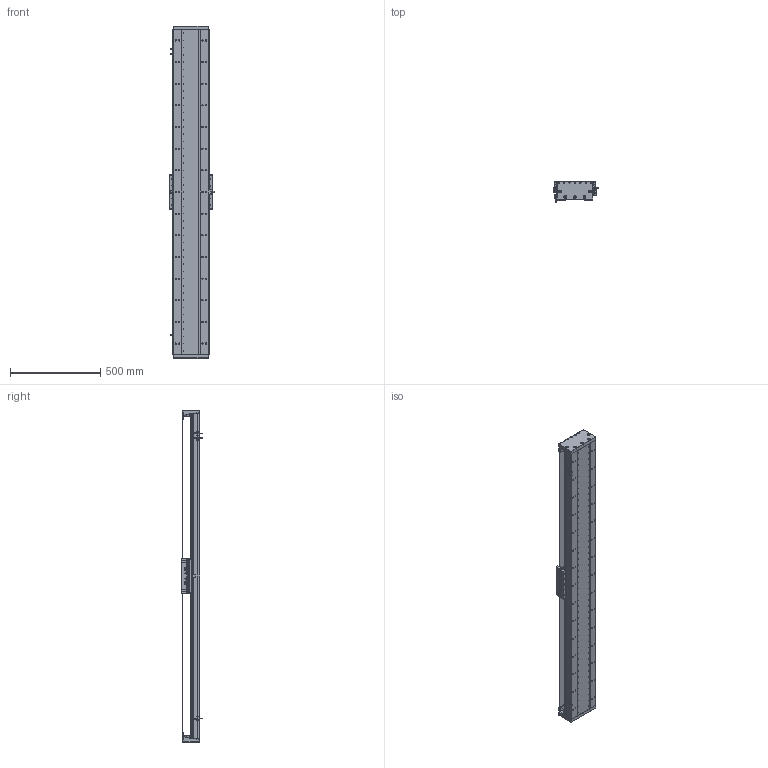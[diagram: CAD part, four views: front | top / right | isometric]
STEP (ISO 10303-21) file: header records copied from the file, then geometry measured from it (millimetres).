
FILE_DESCRIPTION (( 'STEP AP203' ), '1' );
FILE_NAME ('DA-C195-C2-T1560-C010-0.2 眻盄萇儂.STEP', '2025-08-15T01:06:59', ( '' ), ( '' ), 'SwSTEP 2.0', 'SolidWorks 2019', '' );
FILE_SCHEMA (( 'CONFIG_CONTROL_DESIGN' ));
Length unit declared in the file: millimetre
Products named in the file (15): DA195詩湍菜輸; PM-T45ㄗ侂狟ㄘ; MS200 棠掑喜S315-T1740; IU-CU195-L-00 菁釱(L1800); DA-C195-C2-T1560-C010-0.2 眻盄萇儂; DA195詩湍郪璃; IU-CU195-L 菁釱絳寢; DA195詩湍裔啣; DA195詩湍嶺輸; DA165-GYP-00 光电感应片(默认); 葩璃 DA95-GT-T-00; CU195-C2賑輸-俋楷; LMT黍杅芛; DA-C195-GD-DB-H-00 傷啣; DA95-HXJ-00 遣喳砎蝶
Assembly tree (29 placements, depth 3):
  DA-C195-C2-T1560-C010-0.2 眻盄萇儂
    DA195詩湍郪璃
      DA195詩湍菜輸  x2
      DA195詩湍裔啣
      DA195詩湍嶺輸  x2
      DA95-HXJ-00 遣喳砎蝶  x8
      DA-C195-GD-DB-H-00 傷啣  x2
    IU-CU195-L 菁釱絳寢
      IU-CU195-L-00 菁釱(L1800)
      葩璃 DA95-GT-T-00  x4
    LMT黍杅芛
    MS200 棠掑喜S315-T1740
    PM-T45ㄗ侂狟ㄘ  x3
    DA165-GYP-00 光电感应片(默认)
    CU195-C2賑輸-俋楷
Bounding box: 248 x 115.45 x 1840 mm (x, y, z)
Volume: 11125008.9 mm3; surface area: 3238426.8 mm2
Topology: 66 solids, 130 shells, 4052 faces, 10963 edges, 6855 vertices
Faces by surface type: cylinder 2047, plane 1387, cone 530, torus 52, sphere 36
Entity records: 123071 total; most frequent: CARTESIAN_POINT 31174, ORIENTED_EDGE 18810, DIRECTION 18752, EDGE_CURVE 9405, AXIS2_PLACEMENT_3D 7029, VERTEX_POINT 6057, VECTOR 4694, LINE 4694
